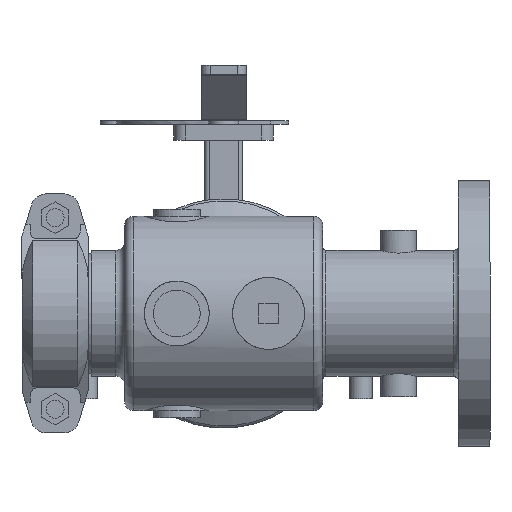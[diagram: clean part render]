
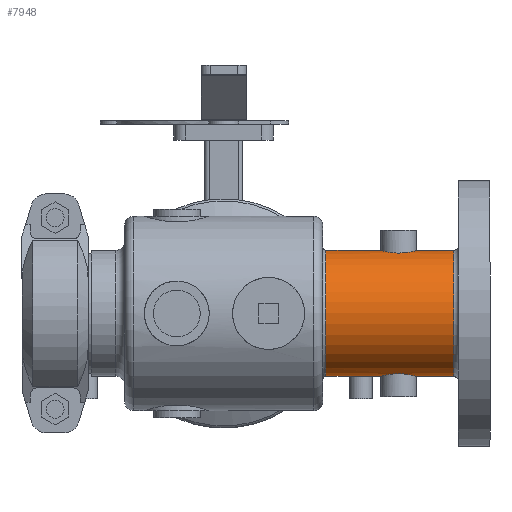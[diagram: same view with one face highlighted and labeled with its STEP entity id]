
A CAD part, front view. The second image highlights one B-rep face of the part: STEP entity #7948.
In plain terms, the highlighted cylindrical face has radius 44.45 mm (diameter 88.9 mm), a full revolution.
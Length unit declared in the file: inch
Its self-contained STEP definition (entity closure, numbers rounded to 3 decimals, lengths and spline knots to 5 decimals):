
#388=FACE_BOUND('',#1041,.T.);
#389=FACE_BOUND('',#1042,.T.);
#482=B_SPLINE_CURVE_WITH_KNOTS('',3,(#12947,#12948,#12949,#12950,#12951,
#12952,#12953,#12954,#12955,#12956,#12957,#12958,#12959,#12960,#12961,#12962,
#12963,#12964,#12965,#12966,#12967,#12968,#12969,#12970,#12971,#12972),
 .UNSPECIFIED.,.F.,.F.,(4,2,2,2,2,2,2,2,2,2,2,2,4),(0.,0.48136,
0.96271,1.44395,1.92519,2.40643,2.88767,
3.36903,3.85039,4.33175,4.8131,5.29434,
5.77558),.UNSPECIFIED.);
#483=B_SPLINE_CURVE_WITH_KNOTS('',3,(#12973,#12974,#12975,#12976,#12977,
#12978,#12979,#12980,#12981,#12982),.UNSPECIFIED.,.F.,.F.,(4,2,2,2,4),(5.77558,
6.25682,6.73806,7.21942,7.70078),
 .UNSPECIFIED.);
#484=B_SPLINE_CURVE_WITH_KNOTS('',3,(#12985,#12986,#12987,#12988,#12989,
#12990,#12991,#12992,#12993,#12994),.UNSPECIFIED.,.F.,.F.,(4,2,2,2,4),(0.,
0.48136,0.96271,1.44395,1.92519),
 .UNSPECIFIED.);
#485=B_SPLINE_CURVE_WITH_KNOTS('',3,(#12995,#12996,#12997,#12998,#12999,
#13000,#13001,#13002,#13003,#13004,#13005,#13006,#13007,#13008,#13009,#13010,
#13011,#13012,#13013,#13014,#13015,#13016,#13017,#13018,#13019,#13020),
 .UNSPECIFIED.,.F.,.F.,(4,2,2,2,2,2,2,2,2,2,2,2,4),(1.92519,2.40643,
2.88767,3.36903,3.85039,4.33175,4.8131,
5.29434,5.77558,6.25682,6.73806,7.21942,
7.70078),.UNSPECIFIED.);
#574=FACE_OUTER_BOUND('',#1040,.T.);
#1040=EDGE_LOOP('',(#5332,#5333,#5334,#5335,#5336,#5337,#5338,#5339));
#1041=EDGE_LOOP('',(#5340,#5341));
#1042=EDGE_LOOP('',(#5342,#5343));
#1570=CIRCLE('',#8604,1.75);
#1572=CIRCLE('',#8606,1.75);
#1573=CIRCLE('',#8607,1.75);
#1576=CIRCLE('',#8612,1.75);
#1577=CIRCLE('',#8613,1.75);
#1578=CIRCLE('',#8614,1.75);
#2002=LINE('',#12944,#2588);
#2588=VECTOR('',#9814,1.75);
#3215=VERTEX_POINT('',#12763);
#3216=VERTEX_POINT('',#12764);
#3217=VERTEX_POINT('',#12767);
#3222=VERTEX_POINT('',#12813);
#3223=VERTEX_POINT('',#12815);
#3224=VERTEX_POINT('',#12817);
#3252=VERTEX_POINT('',#12945);
#3253=VERTEX_POINT('',#12946);
#3254=VERTEX_POINT('',#12983);
#3255=VERTEX_POINT('',#12984);
#4008=EDGE_CURVE('',#3215,#3216,#1570,.T.);
#4010=EDGE_CURVE('',#3216,#3217,#1572,.T.);
#4011=EDGE_CURVE('',#3217,#3215,#1573,.T.);
#4016=EDGE_CURVE('',#3223,#3222,#1576,.T.);
#4017=EDGE_CURVE('',#3224,#3223,#1577,.T.);
#4018=EDGE_CURVE('',#3222,#3224,#1578,.T.);
#4059=EDGE_CURVE('',#3217,#3224,#2002,.T.);
#4060=EDGE_CURVE('',#3252,#3253,#482,.T.);
#4061=EDGE_CURVE('',#3253,#3252,#483,.T.);
#4062=EDGE_CURVE('',#3254,#3255,#484,.T.);
#4063=EDGE_CURVE('',#3255,#3254,#485,.T.);
#5332=ORIENTED_EDGE('',*,*,#4008,.F.);
#5333=ORIENTED_EDGE('',*,*,#4011,.F.);
#5334=ORIENTED_EDGE('',*,*,#4059,.T.);
#5335=ORIENTED_EDGE('',*,*,#4017,.T.);
#5336=ORIENTED_EDGE('',*,*,#4016,.T.);
#5337=ORIENTED_EDGE('',*,*,#4018,.T.);
#5338=ORIENTED_EDGE('',*,*,#4059,.F.);
#5339=ORIENTED_EDGE('',*,*,#4010,.F.);
#5340=ORIENTED_EDGE('',*,*,#4060,.T.);
#5341=ORIENTED_EDGE('',*,*,#4061,.T.);
#5342=ORIENTED_EDGE('',*,*,#4062,.T.);
#5343=ORIENTED_EDGE('',*,*,#4063,.T.);
#7309=CYLINDRICAL_SURFACE('',#8666,1.75);
#7948=ADVANCED_FACE('',(#574,#388,#389),#7309,.T.);
#8604=AXIS2_PLACEMENT_3D('',#12765,#9679,#9680);
#8606=AXIS2_PLACEMENT_3D('',#12768,#9683,#9684);
#8607=AXIS2_PLACEMENT_3D('',#12769,#9685,#9686);
#8612=AXIS2_PLACEMENT_3D('',#12816,#9695,#9696);
#8613=AXIS2_PLACEMENT_3D('',#12818,#9697,#9698);
#8614=AXIS2_PLACEMENT_3D('',#12819,#9699,#9700);
#8666=AXIS2_PLACEMENT_3D('',#12943,#9812,#9813);
#9679=DIRECTION('center_axis',(1.,0.,0.));
#9680=DIRECTION('ref_axis',(0.,0.,-1.));
#9683=DIRECTION('center_axis',(1.,0.,0.));
#9684=DIRECTION('ref_axis',(0.,0.,-1.));
#9685=DIRECTION('center_axis',(1.,0.,0.));
#9686=DIRECTION('ref_axis',(0.,0.,-1.));
#9695=DIRECTION('center_axis',(1.,0.,0.));
#9696=DIRECTION('ref_axis',(0.,0.,-1.));
#9697=DIRECTION('center_axis',(1.,0.,0.));
#9698=DIRECTION('ref_axis',(0.,0.,-1.));
#9699=DIRECTION('center_axis',(1.,0.,0.));
#9700=DIRECTION('ref_axis',(0.,0.,-1.));
#9812=DIRECTION('center_axis',(1.,0.,0.));
#9813=DIRECTION('ref_axis',(0.,1.,0.));
#9814=DIRECTION('',(-1.,0.,0.));
#12763=CARTESIAN_POINT('',(6.39,1.75,0.));
#12764=CARTESIAN_POINT('',(6.39,0.,1.75));
#12765=CARTESIAN_POINT('Origin',(6.39,0.,0.));
#12767=CARTESIAN_POINT('',(6.39,-1.75,0.));
#12768=CARTESIAN_POINT('Origin',(6.39,0.,0.));
#12769=CARTESIAN_POINT('Origin',(6.39,0.,0.));
#12813=CARTESIAN_POINT('',(2.84,0.,1.75));
#12815=CARTESIAN_POINT('',(2.84,1.75,0.));
#12816=CARTESIAN_POINT('Origin',(2.84,0.,0.));
#12817=CARTESIAN_POINT('',(2.84,-1.75,0.));
#12818=CARTESIAN_POINT('Origin',(2.84,0.,0.));
#12819=CARTESIAN_POINT('Origin',(2.84,0.,0.));
#12943=CARTESIAN_POINT('Origin',(4.945,0.,0.));
#12944=CARTESIAN_POINT('',(4.945,-1.75,0.));
#12945=CARTESIAN_POINT('',(4.86,-0.5,1.67705));
#12946=CARTESIAN_POINT('',(5.36,0.,1.75));
#12947=CARTESIAN_POINT('Ctrl Pts',(4.86,-0.5,1.67705));
#12948=CARTESIAN_POINT('Ctrl Pts',(4.79683,-0.5,1.67705));
#12949=CARTESIAN_POINT('Ctrl Pts',(4.72971,-0.4873,
1.68099));
#12950=CARTESIAN_POINT('Ctrl Pts',(4.60663,-0.43617,
1.69498));
#12951=CARTESIAN_POINT('Ctrl Pts',(4.55065,-0.39775,
1.7048));
#12952=CARTESIAN_POINT('Ctrl Pts',(4.46226,-0.30936,
1.72303));
#12953=CARTESIAN_POINT('Ctrl Pts',(4.42383,-0.25337,
1.73267));
#12954=CARTESIAN_POINT('Ctrl Pts',(4.37269,-0.13028,
1.74624));
#12955=CARTESIAN_POINT('Ctrl Pts',(4.36,-0.06315,1.75));
#12956=CARTESIAN_POINT('Ctrl Pts',(4.36,0.06315,1.75));
#12957=CARTESIAN_POINT('Ctrl Pts',(4.37269,0.13028,1.74624));
#12958=CARTESIAN_POINT('Ctrl Pts',(4.42383,0.25337,1.73267));
#12959=CARTESIAN_POINT('Ctrl Pts',(4.46226,0.30936,1.72303));
#12960=CARTESIAN_POINT('Ctrl Pts',(4.55065,0.39775,1.7048));
#12961=CARTESIAN_POINT('Ctrl Pts',(4.60663,0.43617,1.69498));
#12962=CARTESIAN_POINT('Ctrl Pts',(4.72971,0.4873,1.68099));
#12963=CARTESIAN_POINT('Ctrl Pts',(4.79683,0.5,1.67705));
#12964=CARTESIAN_POINT('Ctrl Pts',(4.92317,0.5,1.67705));
#12965=CARTESIAN_POINT('Ctrl Pts',(4.99029,0.4873,1.68099));
#12966=CARTESIAN_POINT('Ctrl Pts',(5.11337,0.43617,1.69498));
#12967=CARTESIAN_POINT('Ctrl Pts',(5.16935,0.39775,1.7048));
#12968=CARTESIAN_POINT('Ctrl Pts',(5.25774,0.30936,1.72303));
#12969=CARTESIAN_POINT('Ctrl Pts',(5.29617,0.25337,1.73267));
#12970=CARTESIAN_POINT('Ctrl Pts',(5.34731,0.13028,1.74624));
#12971=CARTESIAN_POINT('Ctrl Pts',(5.36,0.06315,1.75));
#12972=CARTESIAN_POINT('Ctrl Pts',(5.36,0.,1.75));
#12973=CARTESIAN_POINT('Ctrl Pts',(5.36,0.,1.75));
#12974=CARTESIAN_POINT('Ctrl Pts',(5.36,-0.06315,1.75));
#12975=CARTESIAN_POINT('Ctrl Pts',(5.34731,-0.13028,
1.74624));
#12976=CARTESIAN_POINT('Ctrl Pts',(5.29617,-0.25337,
1.73267));
#12977=CARTESIAN_POINT('Ctrl Pts',(5.25774,-0.30936,
1.72303));
#12978=CARTESIAN_POINT('Ctrl Pts',(5.16935,-0.39775,
1.7048));
#12979=CARTESIAN_POINT('Ctrl Pts',(5.11337,-0.43617,
1.69498));
#12980=CARTESIAN_POINT('Ctrl Pts',(4.99029,-0.4873,
1.68099));
#12981=CARTESIAN_POINT('Ctrl Pts',(4.92317,-0.5,1.67705));
#12982=CARTESIAN_POINT('Ctrl Pts',(4.86,-0.5,1.67705));
#12983=CARTESIAN_POINT('',(4.86,-0.5,-1.67705));
#12984=CARTESIAN_POINT('',(5.36,0.,-1.75));
#12985=CARTESIAN_POINT('Ctrl Pts',(4.86,-0.5,-1.67705));
#12986=CARTESIAN_POINT('Ctrl Pts',(4.92317,-0.5,-1.67705));
#12987=CARTESIAN_POINT('Ctrl Pts',(4.99029,-0.4873,
-1.68099));
#12988=CARTESIAN_POINT('Ctrl Pts',(5.11337,-0.43617,
-1.69498));
#12989=CARTESIAN_POINT('Ctrl Pts',(5.16935,-0.39775,
-1.7048));
#12990=CARTESIAN_POINT('Ctrl Pts',(5.25774,-0.30936,
-1.72303));
#12991=CARTESIAN_POINT('Ctrl Pts',(5.29617,-0.25337,
-1.73267));
#12992=CARTESIAN_POINT('Ctrl Pts',(5.34731,-0.13028,
-1.74624));
#12993=CARTESIAN_POINT('Ctrl Pts',(5.36,-0.06315,-1.75));
#12994=CARTESIAN_POINT('Ctrl Pts',(5.36,0.,-1.75));
#12995=CARTESIAN_POINT('Ctrl Pts',(5.36,0.,-1.75));
#12996=CARTESIAN_POINT('Ctrl Pts',(5.36,0.06315,-1.75));
#12997=CARTESIAN_POINT('Ctrl Pts',(5.34731,0.13028,-1.74624));
#12998=CARTESIAN_POINT('Ctrl Pts',(5.29617,0.25337,-1.73267));
#12999=CARTESIAN_POINT('Ctrl Pts',(5.25774,0.30936,-1.72303));
#13000=CARTESIAN_POINT('Ctrl Pts',(5.16935,0.39775,-1.7048));
#13001=CARTESIAN_POINT('Ctrl Pts',(5.11337,0.43617,-1.69498));
#13002=CARTESIAN_POINT('Ctrl Pts',(4.99029,0.4873,-1.68099));
#13003=CARTESIAN_POINT('Ctrl Pts',(4.92317,0.5,-1.67705));
#13004=CARTESIAN_POINT('Ctrl Pts',(4.79683,0.5,-1.67705));
#13005=CARTESIAN_POINT('Ctrl Pts',(4.72971,0.4873,-1.68099));
#13006=CARTESIAN_POINT('Ctrl Pts',(4.60663,0.43617,-1.69498));
#13007=CARTESIAN_POINT('Ctrl Pts',(4.55065,0.39775,-1.7048));
#13008=CARTESIAN_POINT('Ctrl Pts',(4.46226,0.30936,-1.72303));
#13009=CARTESIAN_POINT('Ctrl Pts',(4.42383,0.25337,-1.73267));
#13010=CARTESIAN_POINT('Ctrl Pts',(4.37269,0.13028,-1.74624));
#13011=CARTESIAN_POINT('Ctrl Pts',(4.36,0.06315,-1.75));
#13012=CARTESIAN_POINT('Ctrl Pts',(4.36,-0.06315,-1.75));
#13013=CARTESIAN_POINT('Ctrl Pts',(4.37269,-0.13028,
-1.74624));
#13014=CARTESIAN_POINT('Ctrl Pts',(4.42383,-0.25337,
-1.73267));
#13015=CARTESIAN_POINT('Ctrl Pts',(4.46226,-0.30936,
-1.72303));
#13016=CARTESIAN_POINT('Ctrl Pts',(4.55065,-0.39775,
-1.7048));
#13017=CARTESIAN_POINT('Ctrl Pts',(4.60663,-0.43617,
-1.69498));
#13018=CARTESIAN_POINT('Ctrl Pts',(4.72971,-0.4873,
-1.68099));
#13019=CARTESIAN_POINT('Ctrl Pts',(4.79683,-0.5,-1.67705));
#13020=CARTESIAN_POINT('Ctrl Pts',(4.86,-0.5,-1.67705));
